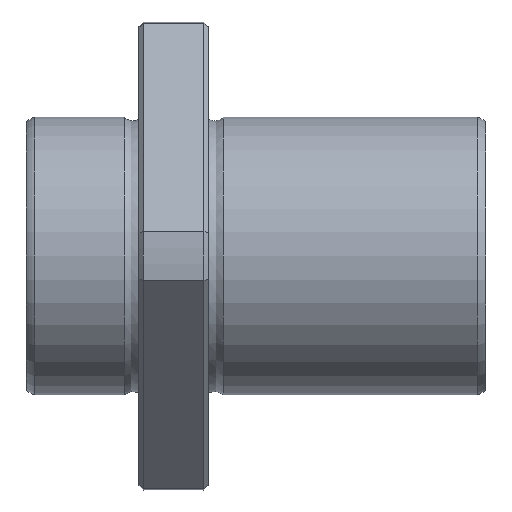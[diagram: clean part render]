
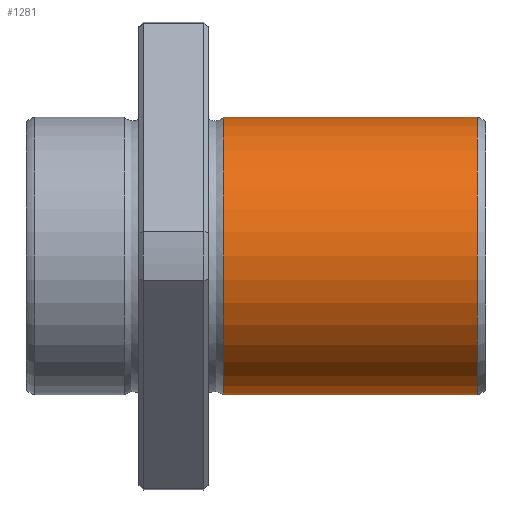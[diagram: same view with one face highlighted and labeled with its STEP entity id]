
A CAD part, front view. The second image highlights one B-rep face of the part: STEP entity #1281.
In plain terms, the highlighted cylindrical face has radius 16 mm (diameter 32 mm), a full revolution.
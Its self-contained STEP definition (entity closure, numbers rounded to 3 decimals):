
#1247=CARTESIAN_POINT('',(51.999,0.0,16.));
#1248=VERTEX_POINT('',#1247);
#1249=CARTESIAN_POINT('',(51.999,0.0,0.0));
#1250=DIRECTION('',(-1.0,0.0,0.0));
#1251=DIRECTION('',(0.0,0.0,1.0));
#1252=AXIS2_PLACEMENT_3D('',#1249,#1250,#1251);
#1253=CIRCLE('',#1252,16.);
#1254=EDGE_CURVE('',#1248,#1248,#1253,.T.);
#1262=CARTESIAN_POINT('',(37.359,0.0,0.0));
#1263=DIRECTION('',(-1.0,0.0,0.0));
#1264=DIRECTION('',(0.0,0.0,1.0));
#1265=AXIS2_PLACEMENT_3D('',#1262,#1263,#1264);
#1266=CYLINDRICAL_SURFACE('',#1265,16.);
#1267=CARTESIAN_POINT('',(22.72,0.0,16.));
#1268=VERTEX_POINT('',#1267);
#1269=CARTESIAN_POINT('',(22.72,0.0,0.0));
#1270=DIRECTION('',(-1.0,0.0,0.0));
#1271=DIRECTION('',(0.0,0.0,1.0));
#1272=AXIS2_PLACEMENT_3D('',#1269,#1270,#1271);
#1273=CIRCLE('',#1272,16.);
#1274=EDGE_CURVE('',#1268,#1268,#1273,.T.);
#1275=ORIENTED_EDGE('',*,*,#1274,.F.);
#1276=EDGE_LOOP('',(#1275));
#1277=FACE_OUTER_BOUND('',#1276,.T.);
#1278=ORIENTED_EDGE('',*,*,#1254,.T.);
#1279=EDGE_LOOP('',(#1278));
#1280=FACE_BOUND('',#1279,.T.);
#1281=ADVANCED_FACE('',(#1277,#1280),#1266,.T.);
